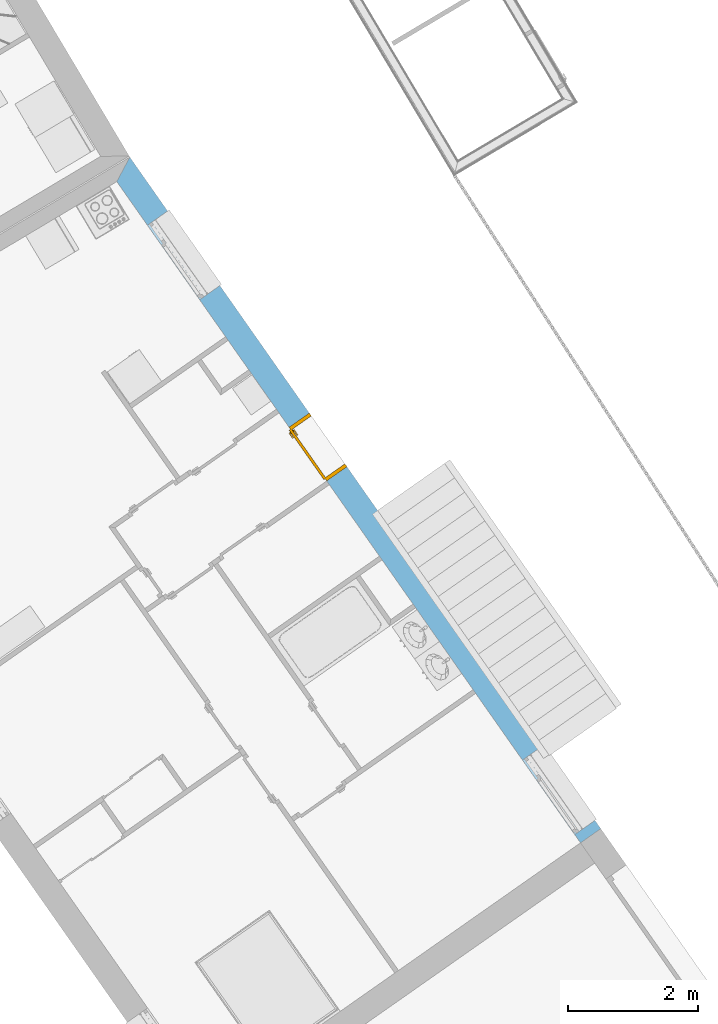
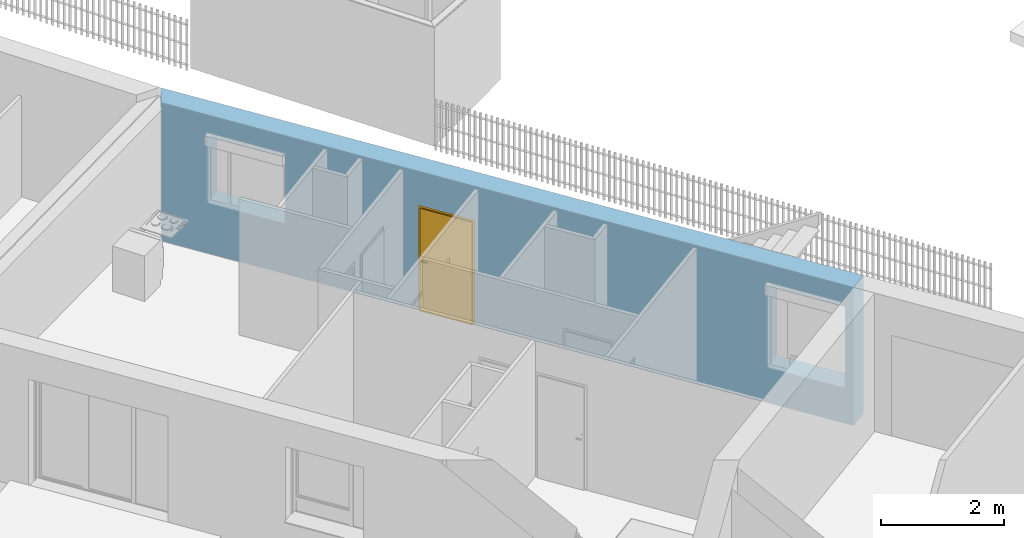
# One storey, part 33 of 195: 1 door, 3 openings, plus 1 element that does not belong to this part.
"""IFC2X3 building model written with IfcOpenShell, lengths in metres."""

import ifcopenshell
import ifcopenshell.guid

model = None  # the IFC model being written
_history = None  # IfcOwnerHistory: only IFC2X3 demands one
_inside = {}  # id of a spatial element -> (the spatial element, [elements in it])
_under = {}  # id of a project, library or spatial element -> (it, [spatial elements below it])
_declared = {}  # id of a project -> (the project, [libraries it declares])
_typed = {}  # id of a type object -> (the type object, [elements of that type])
_made_of = {}  # id of a material, layer set ... -> (it, [elements and type objects made of it])


def new_model(schema):
    """Start an empty IFC model of exactly this schema.

    Asked for "IFC4X3", IfcOpenShell would pick the latest addendum, in which some entities
    have other attributes; the version numbers below select the first issue.
    IFC2X3 requires an IfcOwnerHistory on every rooted entity: one is made here for all.
    """
    global model, _history
    if schema == "IFC4X3":
        model = ifcopenshell.file(schema_version=(4, 3, 0, 0))
    else:
        model = ifcopenshell.file(schema=schema)
    _inside.clear()
    _under.clear()
    _declared.clear()
    _typed.clear()
    _made_of.clear()
    _history = None
    if model.schema == "IFC2X3":
        org = make("IfcOrganization", Name="unknown")
        user = make(
            "IfcPersonAndOrganization",
            ThePerson=make("IfcPerson", FamilyName="unknown"),
            TheOrganization=org,
        )
        app = make(
            "IfcApplication",
            ApplicationDeveloper=org,
            Version="unknown",
            ApplicationFullName="unknown",
            ApplicationIdentifier="unknown",
        )
        _history = make(
            "IfcOwnerHistory",
            OwningUser=user,
            OwningApplication=app,
            ChangeAction="ADDED",
            CreationDate=0,
        )
    return model


def make(cls, **values):
    """One entity of the class cls with the attributes given. An attribute that is None is left unset."""
    return model.create_entity(
        cls, **{name: value for name, value in values.items() if value is not None}
    )


def entity(cls, *values):
    """Any entity or typed value of the class cls, its attributes in the order of the schema. None: left unset."""
    e = model.create_entity(cls)
    for i, value in enumerate(values):
        if value is not None:
            e[i] = value
    return e


def rooted(cls, **values):
    """An entity with a GlobalId (a new one), such as an element, a storey or a relation."""
    return make(cls, GlobalId=ifcopenshell.guid.new(), OwnerHistory=_history, **values)


def si_unit(unit_type, name, prefix=None):
    """IfcSIUnit, for example si_unit("LENGTHUNIT", "METRE", prefix="MILLI")."""
    return make("IfcSIUnit", UnitType=unit_type, Prefix=prefix, Name=name)


def converted_unit(unit_type, name, factor, base, dimensions=None, offset=None):
    """IfcConversionBasedUnit, such as the inch: factor (a typed value) times the base unit."""
    return make(
        "IfcConversionBasedUnit"
        if offset is None
        else "IfcConversionBasedUnitWithOffset",
        ConversionOffset=offset,
        Dimensions=None
        if dimensions is None
        else entity("IfcDimensionalExponents", *dimensions),
        UnitType=unit_type,
        Name=name,
        ConversionFactor=make(
            "IfcMeasureWithUnit", ValueComponent=factor, UnitComponent=base
        ),
    )


def derived_unit(unit_type, elements):
    """IfcDerivedUnit: a product of units, each with its exponent."""
    return make(
        "IfcDerivedUnit",
        Elements=[
            make("IfcDerivedUnitElement", Unit=unit, Exponent=power)
            for unit, power in elements
        ],
        UnitType=unit_type,
    )


def money_unit(currency):
    """IfcMonetaryUnit."""
    return make("IfcMonetaryUnit", Currency=currency)


def assignment(units):
    """IfcUnitAssignment: the units of a project."""
    return None if units is None else make("IfcUnitAssignment", Units=units)


def point(xyz):
    """IfcCartesianPoint."""
    return None if xyz is None else make("IfcCartesianPoint", Coordinates=xyz)


def direction(xyz):
    """IfcDirection."""
    return None if xyz is None else make("IfcDirection", DirectionRatios=xyz)


def frame(location, z_axis=None, x_axis=None):
    """IfcAxis2Placement3D, a coordinate frame: its origin and axes. An axis left out is left unset."""
    return make(
        "IfcAxis2Placement3D",
        Location=point(location),
        Axis=direction(z_axis),
        RefDirection=direction(x_axis),
    )


def frame_2d(location, x_axis=None):
    """IfcAxis2Placement2D, a coordinate frame in the plane: its origin and x axis."""
    return make(
        "IfcAxis2Placement2D", Location=point(location), RefDirection=direction(x_axis)
    )


def origin_with_axes():
    """The frame at (0, 0, 0) with the z axis (0, 0, 1) and the x axis (1, 0, 0) written out."""
    return frame((0.0, 0.0, 0.0), z_axis=(0.0, 0.0, 1.0), x_axis=(1.0, 0.0, 0.0))


def origin_2d_with_axis():
    """The frame at (0, 0) in the plane with the x axis (1, 0) written out."""
    return frame_2d((0.0, 0.0), x_axis=(1.0, 0.0))


def place(relative_to, where):
    """IfcLocalPlacement: puts the frame where relative to a parent placement (None: the world)."""
    return make(
        "IfcLocalPlacement", PlacementRelTo=relative_to, RelativePlacement=where
    )


def context(
    kind, dimensions, precision=None, world=None, true_north=None, identifier=None
):
    """IfcGeometricRepresentationContext, for example the 3D "Model" context."""
    return make(
        "IfcGeometricRepresentationContext",
        ContextIdentifier=identifier,
        ContextType=kind,
        CoordinateSpaceDimension=dimensions,
        Precision=precision,
        WorldCoordinateSystem=world,
        TrueNorth=true_north,
    )


def subcontext(parent, identifier, kind, view, scale=None):
    """IfcGeometricRepresentationSubContext, for example "Body" below "Model"."""
    return make(
        "IfcGeometricRepresentationSubContext",
        ContextIdentifier=identifier,
        ContextType=kind,
        ParentContext=parent,
        TargetScale=scale,
        TargetView=view,
    )


def project(units=None, contexts=None):
    """IfcProject with its units and contexts."""
    return rooted(
        "IfcProject",
        Name="project",
        RepresentationContexts=contexts,
        UnitsInContext=assignment(units),
    )


def spatial(cls, under=None, at=None, **own):
    """A site, building, storey or space (cls), placed at a placement, below another one or the project."""
    s = rooted(cls, ObjectPlacement=at, **own)
    if under is not None:
        _under.setdefault(under.id(), (under, []))[1].append(s)
    return s


def polyline(points):
    """IfcPolyline through the points."""
    return make("IfcPolyline", Points=[point(p) for p in points])


def profile(cls, at=None, kind="AREA", **sizes):
    """A parametric profile (cls). Its sizes go by their IFC names, for example OverallWidth=200.0."""
    return make(cls, ProfileType=kind, Position=at, **sizes)


def rectangle(**sizes):
    """IfcRectangleProfileDef."""
    return profile("IfcRectangleProfileDef", **sizes)


def outline(outer, holes=None, kind="AREA"):
    """IfcArbitraryClosedProfileDef: a profile drawn as a closed curve; with holes, ...WithVoids."""
    if holes is None:
        return make("IfcArbitraryClosedProfileDef", ProfileType=kind, OuterCurve=outer)
    return make(
        "IfcArbitraryProfileDefWithVoids",
        ProfileType=kind,
        OuterCurve=outer,
        InnerCurves=holes,
    )


def extrude(swept, where, along, depth):
    """IfcExtrudedAreaSolid: the profile swept, set in the frame where, extruded along a direction by depth."""
    return make(
        "IfcExtrudedAreaSolid",
        SweptArea=swept,
        Position=where,
        ExtrudedDirection=direction(along),
        Depth=depth,
    )


def faces_of(points, faces, orient=None, outer=None):
    """IfcFace entities. A face is a list of loops; a loop is a list of indices into points, from 0.

    orient and outer hold one flag for each loop. By default every Orientation is true, the
    first loop of a face is its IfcFaceOuterBound and the others are IfcFaceBound.
    """
    made = []
    for i, loops in enumerate(faces):
        bounds = []
        for j, loop in enumerate(loops):
            is_outer = j == 0 if outer is None else outer[i][j]
            bounds.append(
                make(
                    "IfcFaceOuterBound" if is_outer else "IfcFaceBound",
                    Bound=make("IfcPolyLoop", Polygon=[points[k] for k in loop]),
                    Orientation=True if orient is None else orient[i][j],
                )
            )
        made.append(make("IfcFace", Bounds=bounds))
    return made


def faceted_brep(points, faces, orient=None, outer=None, voids=None):
    """IfcFacetedBrep: a solid bounded by flat faces; with voids (closed shells), ...WithVoids."""
    shared = [point(p) for p in points]
    hull = make("IfcClosedShell", CfsFaces=faces_of(shared, faces, orient, outer))
    if voids is None:
        return make("IfcFacetedBrep", Outer=hull)
    return make(
        "IfcFacetedBrepWithVoids",
        Outer=hull,
        Voids=[
            make(cls, CfsFaces=faces_of(shared, fs, o, b)) for cls, fs, o, b in voids
        ],
    )


def shape(context_of_items, identifier, shape_type, items):
    """IfcShapeRepresentation: the items that make up one representation, for example the "Body"."""
    return make(
        "IfcShapeRepresentation",
        ContextOfItems=context_of_items,
        RepresentationIdentifier=identifier,
        RepresentationType=shape_type,
        Items=items,
    )


def source(mapping_origin, context_of_items, identifier, shape_type, items):
    """IfcRepresentationMap: a shape defined once, which mapped items show again and again."""
    return make(
        "IfcRepresentationMap",
        MappingOrigin=mapping_origin,
        MappedRepresentation=shape(context_of_items, identifier, shape_type, items),
    )


def transform(
    local_origin,
    x_axis=None,
    y_axis=None,
    z_axis=None,
    scale=None,
    scale2=None,
    scale3=None,
    uniform=True,
):
    """IfcCartesianTransformationOperator3D, or its non-uniform kind. x_axis, y_axis, z_axis: its Axis1, 2, 3."""
    if uniform:
        return make(
            "IfcCartesianTransformationOperator3D",
            Axis1=direction(x_axis),
            Axis2=direction(y_axis),
            LocalOrigin=point(local_origin),
            Scale=scale,
            Axis3=direction(z_axis),
        )
    return make(
        "IfcCartesianTransformationOperator3DnonUniform",
        Axis1=direction(x_axis),
        Axis2=direction(y_axis),
        LocalOrigin=point(local_origin),
        Scale=scale,
        Axis3=direction(z_axis),
        Scale2=scale2,
        Scale3=scale3,
    )


def mapped(mapping_source, mapping_target):
    """IfcMappedItem: shows the shape of a source again, moved by a transform."""
    return make(
        "IfcMappedItem", MappingSource=mapping_source, MappingTarget=mapping_target
    )


def material(Name=None, Category=None):
    """IfcMaterial."""
    return make("IfcMaterial", Name=Name, Category=Category)


def layer(
    of_material, thickness, ventilated=None, Name=None, Category=None, Priority=None
):
    """IfcMaterialLayer: one layer of a wall or slab, of a material (None: an air gap)."""
    return make(
        "IfcMaterialLayer",
        Material=of_material,
        LayerThickness=thickness,
        IsVentilated=ventilated,
        Name=Name,
        Category=Category,
        Priority=Priority,
    )


def layer_set(layers, Name=None):
    """IfcMaterialLayerSet."""
    return make("IfcMaterialLayerSet", MaterialLayers=layers, LayerSetName=Name)


def layer_usage(for_layer_set, set_direction, sense, offset, extent=None):
    """IfcMaterialLayerSetUsage: how a layer set lies in its element."""
    return make(
        "IfcMaterialLayerSetUsage",
        ForLayerSet=for_layer_set,
        LayerSetDirection=set_direction,
        DirectionSense=sense,
        OffsetFromReferenceLine=offset,
        ReferenceExtent=extent,
    )


def made_of(thing, what):
    """Note that an element or type object is made of a material, layer set ...; save() writes the relation."""
    if what is not None:
        _made_of.setdefault(what.id(), (what, []))[1].append(thing)
    return thing


def type_object(cls, material=None, **own):
    """A type object (cls), such as IfcWallType, which elements share."""
    return made_of(rooted(cls, **own), material)


def element(
    cls,
    number,
    at=None,
    inside=None,
    cuts=None,
    type_object=None,
    material=None,
    context=None,
    identifier="Body",
    shape_type=None,
    held_by="IfcProductDefinitionShape",
    body=None,
    shapes=None,
    **own,
):
    """One element of the class cls, such as IfcWall. Its Tag is "e" and its number.

    at: its placement. inside: the storey or other place that contains it. cuts: it is an
    opening in that element (IfcRelVoidsElement). A single representation is given by context,
    identifier, shape_type and body (its items); several are given by shapes. held_by: the class
    of the entity that holds the representations. save() writes the other relations.
    """
    e = rooted(cls, Tag="e%d" % number, ObjectPlacement=at, **own)
    if body is not None:
        shapes = [shape(context, identifier, shape_type, body)]
    if shapes is not None:
        e.Representation = make(held_by, Representations=shapes)
    if inside is not None:
        _inside.setdefault(inside.id(), (inside, []))[1].append(e)
    if cuts is not None:
        rooted(
            "IfcRelVoidsElement", RelatingBuildingElement=cuts, RelatedOpeningElement=e
        )
    if type_object is not None:
        _typed.setdefault(type_object.id(), (type_object, []))[1].append(e)
    return made_of(e, material)


def fill(opening, filler):
    """IfcRelFillsElement: the door or window that sits in an opening."""
    return rooted(
        "IfcRelFillsElement",
        RelatingOpeningElement=opening,
        RelatedBuildingElement=filler,
    )


def aggregate(whole, parts):
    """IfcRelAggregates: a whole, such as a stair, and the parts it consists of."""
    return rooted("IfcRelAggregates", RelatingObject=whole, RelatedObjects=parts)


def save(model, path):
    """Write the relations noted so far, then the file.

    IfcRelAggregates (storeys below a building ...), IfcRelContainedInSpatialStructure (elements
    in a storey), IfcRelDefinesByType, IfcRelAssociatesMaterial and IfcRelDeclares: one each for
    every whole, place, type object, material and project.
    """
    for whole, parts in _under.values():
        aggregate(whole, parts)
    for where, things in _inside.values():
        rooted(
            "IfcRelContainedInSpatialStructure",
            RelatedElements=things,
            RelatingStructure=where,
        )
    for kind, things in _typed.values():
        rooted("IfcRelDefinesByType", RelatedObjects=things, RelatingType=kind)
    for what, things in _made_of.values():
        rooted("IfcRelAssociatesMaterial", RelatedObjects=things, RelatingMaterial=what)
    for by, libraries in _declared.values():
        rooted("IfcRelDeclares", RelatingContext=by, RelatedDefinitions=libraries)
    model.write(path)


model = new_model("IFC2X3")

# Units and contexts
model_context = context("Model", 3, precision=1e-05, world=origin_with_axes(), true_north=direction((0.0, 1.0)))
body_context = subcontext(model_context, "Body", "Model", "MODEL_VIEW")
ifc_project = project(units=[si_unit("LENGTHUNIT", "METRE"), si_unit("AREAUNIT", "SQUARE_METRE"), si_unit("VOLUMEUNIT", "CUBIC_METRE"), converted_unit("PLANEANGLEUNIT", "DEGREE", entity("IfcPlaneAngleMeasure", 0.0174532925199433), si_unit("PLANEANGLEUNIT", "RADIAN"), dimensions=[0, 0, 0, 0, 0, 0, 0]), money_unit("CHF"), converted_unit("TIMEUNIT", "Year", entity("IfcTimeMeasure", 31557600.0), si_unit("TIMEUNIT", "SECOND"), dimensions=[0, 0, 1, 0, 0, 0, 0]), si_unit("MASSUNIT", "GRAM", prefix="KILO"), si_unit("THERMODYNAMICTEMPERATUREUNIT", "DEGREE_CELSIUS"), si_unit("LUMINOUSINTENSITYUNIT", "LUMEN"), si_unit("ENERGYUNIT", "JOULE", prefix="MEGA"), derived_unit("THERMALCONDUCTANCEUNIT", [(si_unit("POWERUNIT", "WATT"), 1), (si_unit("LENGTHUNIT", "METRE"), -1), (si_unit("THERMODYNAMICTEMPERATUREUNIT", "KELVIN"), -1)]), derived_unit("SPECIFICHEATCAPACITYUNIT", [(si_unit("ENERGYUNIT", "JOULE"), 1), (si_unit("MASSUNIT", "GRAM", prefix="KILO"), -1), (si_unit("THERMODYNAMICTEMPERATUREUNIT", "KELVIN"), -1)]), derived_unit("MASSDENSITYUNIT", [(si_unit("MASSUNIT", "GRAM", prefix="KILO"), 1), (si_unit("VOLUMEUNIT", "CUBIC_METRE"), -1)])], contexts=[model_context])

# Site, building, storey
site_placement = place(None, origin_with_axes())
site = spatial("IfcSite", under=ifc_project, at=site_placement, Name="Site", CompositionType="ELEMENT")
building_placement = place(site_placement, origin_with_axes())
building = spatial("IfcBuilding", under=site, at=building_placement, Name="Bâtiment", CompositionType="ELEMENT")
storey_placement = place(building_placement, origin_with_axes())
storey = spatial("IfcBuildingStorey", under=building, at=storey_placement, Name="rdc", CompositionType="ELEMENT", Elevation=0.0)

# Wall, openings, door
ifc_material_1 = material(Name="Parpaing 312445824")
ifc_layer_1 = layer(ifc_material_1, 0.22, ventilated="UNKNOWN")
ifc_material_2 = material(Name="Isolant styromousse 301821074")
ifc_layer_2 = layer(ifc_material_2, 0.16, ventilated="UNKNOWN")
ifc_layer_set = layer_set([ifc_layer_1, ifc_layer_2], Name="isol int 22+16 0836643197")
ifc_layer_usage = layer_usage(ifc_layer_set, "AXIS2", "POSITIVE", 0.0)
wall_type = type_object("IfcWallType", Name="isol int 22+16 0836643197 380", PredefinedType="NOTDEFINED")
wall_placement = place(storey_placement, frame((9557.07303788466, -1061.614568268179, 57.7), z_axis=(0.0, 0.0, 1.0), x_axis=(-0.574159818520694, 0.8187432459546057, 0.0)))
wall = element("IfcWallStandardCase", 1, at=wall_placement, inside=storey, type_object=wall_type, material=ifc_layer_usage, Name="Mur-113", context=body_context, shape_type="SweptSolid", body=[
    extrude(outline(polyline([(0.0, 0.0), (12.61434939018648, 0.0), (12.42201370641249, 0.3799999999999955), (0.0, 0.3799999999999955), (0.0, 0.0)])), origin_with_axes(), (0.0, 0.0, 1.0), 2.75),
])
opening_1_placement = place(wall_placement, frame((0.8554378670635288, 0.0, 0.7000000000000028), z_axis=(0.0, 0.0, 1.0), x_axis=(1.0, 0.0, 0.0)))
element("IfcOpeningElement", 2, at=opening_1_placement, cuts=wall, Name="Fen-045", context=body_context, shape_type="Brep", body=[
    faceted_brep([(0.7000000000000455, 0.2200000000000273, 1.5), (-0.6999999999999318, 0.2200000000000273, 1.5), (-0.6999999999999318, -5.930872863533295, 1.5), (0.7000000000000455, -5.930872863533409, 1.5), (0.7000000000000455, 0.2200000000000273, 1.700000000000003), (-0.6999999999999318, 0.2200000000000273, 1.700000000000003), (-0.7000000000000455, 0.2999999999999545, 1.5), (-0.7000000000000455, 0.2999999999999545, 0.0), (-0.6999999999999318, -5.930872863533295, 0.0), (0.7000000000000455, -5.930872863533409, 0.0), (0.7000000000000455, 0.2999999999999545, 1.5), (0.7000000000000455, 0.2999999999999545, 0.0), (0.7000000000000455, 0.4799999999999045, 1.5), (0.7000000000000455, 0.4799999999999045, 1.700000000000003), (-0.7000000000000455, 0.4800000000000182, 1.700000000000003), (-0.7000000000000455, 0.4800000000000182, 1.5), (-0.6999999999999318, 6.310872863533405, 1.5), (-0.6999999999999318, 6.310872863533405, 0.0), (0.7000000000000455, 6.310872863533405, 0.0), (0.7000000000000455, 6.310872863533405, 1.5)], [[[0, 1, 2, 3]], [[1, 0, 4, 5]], [[1, 6, 7, 8, 2]], [[2, 8, 9, 3]], [[10, 0, 3, 9, 11]], [[0, 10, 12, 13, 4]], [[4, 13, 14, 5]], [[6, 1, 5, 14, 15]], [[6, 15, 16, 17, 7]], [[7, 11, 9, 8]], [[12, 10, 11, 18, 19]], [[12, 15, 14, 13]], [[15, 12, 19, 16]], [[19, 18, 17, 16]], [[11, 7, 17, 18]]]),
])
opening_2_placement = place(wall_placement, frame((10.90187517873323, 0.0, 1.0), z_axis=(0.0, 0.0, 1.0), x_axis=(1.0, 0.0, 0.0)))
element("IfcOpeningElement", 3, at=opening_2_placement, cuts=wall, Name="Fen-045", context=body_context, shape_type="Brep", body=[
    faceted_brep([(0.7000000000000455, 0.2199999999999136, 1.200000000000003), (-0.6999999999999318, 0.2199999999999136, 1.200000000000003), (-0.6999999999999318, -5.930872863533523, 1.200000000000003), (0.7000000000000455, -5.930872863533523, 1.200000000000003), (0.7000000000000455, 0.2199999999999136, 1.399999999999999), (-0.6999999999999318, 0.2199999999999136, 1.399999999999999), (-0.6999999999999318, 0.2999999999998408, 1.200000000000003), (-0.7000000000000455, 0.2999999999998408, 0.0), (-0.6999999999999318, -5.930872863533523, 0.0), (0.7000000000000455, -5.930872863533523, 0.0), (0.7000000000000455, 0.2999999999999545, 1.200000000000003), (0.7000000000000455, 0.2999999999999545, 0.0), (0.7000000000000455, 0.4799999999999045, 1.200000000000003), (0.7000000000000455, 0.4799999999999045, 1.399999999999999), (-0.7000000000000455, 0.4799999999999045, 1.399999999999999), (-0.7000000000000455, 0.4799999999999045, 1.200000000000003), (-0.7000000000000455, 6.31087286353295, 1.200000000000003), (-0.7000000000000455, 6.31087286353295, 0.0), (0.7000000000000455, 6.310872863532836, 0.0), (0.7000000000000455, 6.310872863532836, 1.200000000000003)], [[[0, 1, 2, 3]], [[1, 0, 4, 5]], [[1, 6, 7, 8, 2]], [[2, 8, 9, 3]], [[10, 0, 3, 9, 11]], [[0, 10, 12, 13, 4]], [[4, 13, 14, 5]], [[6, 1, 5, 14, 15]], [[6, 15, 16, 17, 7]], [[7, 11, 9, 8]], [[12, 10, 11, 18, 19]], [[12, 15, 14, 13]], [[15, 12, 19, 16]], [[19, 18, 17, 16]], [[11, 7, 17, 18]]]),
])
opening_3_placement = place(wall_placement, frame((7.303138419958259, 0.0, 0.0), z_axis=(0.0, 0.0, 1.0), x_axis=(1.0, 0.0, 0.0)))
opening_3 = element("IfcOpeningElement", 4, at=opening_3_placement, cuts=wall, Name="Por-290", context=body_context, shape_type="SweptSolid", body=[
    extrude(rectangle(XDim=1.01000001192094, YDim=2.079999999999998, at=origin_2d_with_axis()), frame((-5.960487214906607e-09, -0.3800000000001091, 1.039999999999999), z_axis=(0.0, -1.0, 0.0), x_axis=(-1.0, 0.0, 0.0)), (0.0, 0.0, -1.0), 0.76),
])
door_style = type_object("IfcDoorStyle", Name="Porte_1v", ConstructionType="NOTDEFINED", OperationType="NOTDEFINED", ParameterTakesPrecedence=False, Sizeable=False)
shared_shape = source(origin_with_axes(), body_context, "Body", "Brep", [
    faceted_brep([(-0.505, 0.0, 0.0), (-0.505, 0.0, 2.08), (0.505, 0.0, 2.08), (0.505, 0.0, 0.0), (0.465, 0.0, 0.0), (0.465, 0.0, 2.04), (-0.465, 0.0, 2.04), (-0.465, 0.0, 0.0), (-0.505, -0.38, 0.0), (-0.505, -0.38, 2.08), (0.505, -0.38, 2.08), (0.505, -0.38, 0.0), (0.45, -0.38, 0.0), (0.45, -0.015, 0.0), (0.465, -0.015, 0.0), (0.465, -0.015, 2.04), (-0.465, -0.015, 2.04), (-0.465, -0.015, 0.0), (-0.45, -0.015, 0.0), (-0.45, -0.38, 0.0), (-0.45, -0.38, 2.025), (0.45, -0.38, 2.025), (0.45, -0.015, 2.025), (-0.45, -0.015, 2.025)], [[[0, 1, 2, 3, 4, 5, 6, 7]], [[8, 9, 1, 0]], [[9, 10, 2, 1]], [[10, 11, 3, 2]], [[3, 11, 12, 13, 14, 4]], [[5, 4, 14, 15]], [[6, 5, 15, 16]], [[7, 6, 16, 17]], [[0, 7, 17, 18, 19, 8]], [[19, 20, 21, 12, 11, 10, 9, 8]], [[22, 13, 12, 21]], [[17, 16, 15, 14, 13, 22, 23, 18]], [[18, 23, 20, 19]], [[23, 22, 21, 20]]]),
    faceted_brep([(0.4, -0.015, 0.9), (0.4, -0.015, 1.1), (0.44, -0.015, 1.1), (0.44, -0.015, 0.9), (0.4, -0.025, 0.9), (0.4, -0.025, 1.1), (0.44, -0.025, 1.1), (0.44, -0.025, 0.9)], [[[0, 1, 2, 3]], [[0, 4, 5, 1]], [[1, 5, 6, 2]], [[2, 6, 7, 3]], [[3, 7, 4, 0]], [[7, 6, 5, 4]]]),
    faceted_brep([(0.33, -0.025, 1.0), (0.33, -0.025, 1.02), (0.43, -0.025, 1.02), (0.43, -0.025, 1.0), (0.33, -0.045, 1.0), (0.33, -0.045, 1.02), (0.43, -0.045, 1.02), (0.43, -0.045, 1.0)], [[[0, 1, 2, 3]], [[0, 4, 5, 1]], [[1, 5, 6, 2]], [[2, 6, 7, 3]], [[3, 7, 4, 0]], [[7, 6, 5, 4]]]),
    faceted_brep([(0.4, 0.035, 0.9), (0.4, 0.035, 1.1), (0.44, 0.035, 1.1), (0.44, 0.035, 0.9), (0.4, 0.025, 0.9), (0.4, 0.025, 1.1), (0.44, 0.025, 1.1), (0.44, 0.025, 0.9)], [[[0, 1, 2, 3]], [[0, 4, 5, 1]], [[1, 5, 6, 2]], [[2, 6, 7, 3]], [[3, 7, 4, 0]], [[7, 6, 5, 4]]]),
    faceted_brep([(0.33, 0.05500000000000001, 1.0), (0.33, 0.05500000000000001, 1.02), (0.43, 0.05500000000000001, 1.02), (0.43, 0.05500000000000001, 1.0), (0.33, 0.035, 1.0), (0.33, 0.035, 1.02), (0.43, 0.035, 1.02), (0.43, 0.035, 1.0)], [[[0, 1, 2, 3]], [[0, 4, 5, 1]], [[1, 5, 6, 2]], [[2, 6, 7, 3]], [[3, 7, 4, 0]], [[7, 6, 5, 4]]]),
    faceted_brep([(0.465, 0.025, 0.0), (0.465, -0.015, 0.0), (-0.465, -0.015, 0.0), (-0.465, 0.025, 0.0), (0.465, 0.025, 2.04), (0.465, -0.015, 2.04), (-0.465, -0.015, 2.04), (-0.465, 0.025, 2.04)], [[[0, 1, 2, 3]], [[4, 5, 1, 0]], [[1, 5, 6, 2]], [[3, 2, 6, 7]], [[0, 3, 7, 4]], [[7, 6, 5, 4]]]),
])
door_placement = place(opening_3_placement, frame((-0.4649999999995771, 0.0, 0.0), z_axis=(0.0, 0.0, 1.0), x_axis=(1.0, 0.0, 0.0)))
door = element("IfcDoor", 5, at=door_placement, inside=storey, type_object=door_style, Name="Por-290", OverallHeight=2.04, OverallWidth=0.93, context=body_context, shape_type="MappedRepresentation", body=[
    mapped(shared_shape, transform((0.4650000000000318, 0.3799999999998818, 0.0))),
])
fill(opening_3, door)

save(model, "model.ifc")
